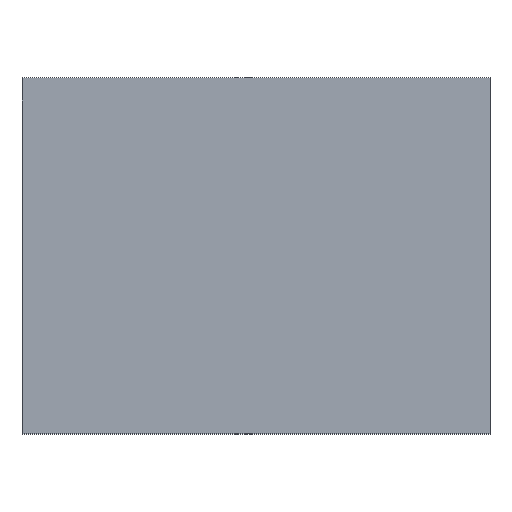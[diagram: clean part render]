
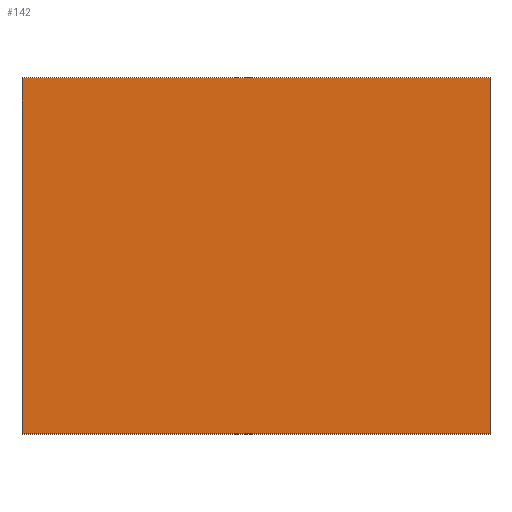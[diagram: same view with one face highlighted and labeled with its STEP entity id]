
A CAD part, top view. The second image highlights one B-rep face of the part: STEP entity #142.
In plain terms, the highlighted planar face has unit normal (0, 0, 1).
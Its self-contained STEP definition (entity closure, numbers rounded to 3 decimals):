
#5 = AXIS2_PLACEMENT_3D ( 'NONE', #750, #818, #654 ) ;
#11 = ORIENTED_EDGE ( 'NONE', *, *, #678, .T. ) ;
#16 = LINE ( 'NONE', #681, #679 ) ;
#50 = CARTESIAN_POINT ( 'NONE',  ( 0., 0., 12.5 ) ) ;
#69 = CARTESIAN_POINT ( 'NONE',  ( 0., 0., 12.5 ) ) ;
#97 = VERTEX_POINT ( 'NONE', #69 ) ;
#113 = CARTESIAN_POINT ( 'NONE',  ( 50., 38., 12.5 ) ) ;
#142 = ADVANCED_FACE ( 'NONE', ( #1062 ), #322, .F. ) ;
#190 = EDGE_LOOP ( 'NONE', ( #932, #11, #450, #467 ) ) ;
#258 = CARTESIAN_POINT ( 'NONE',  ( 0., 38., 12.5 ) ) ;
#280 = DIRECTION ( 'NONE',  ( -1., 0., 0. ) ) ;
#289 = LINE ( 'NONE', #50, #921 ) ;
#322 = PLANE ( 'NONE',  #5 ) ;
#376 = DIRECTION ( 'NONE',  ( 0., -1., 0. ) ) ;
#399 = LINE ( 'NONE', #414, #1001 ) ;
#414 = CARTESIAN_POINT ( 'NONE',  ( 0., 0., 12.5 ) ) ;
#450 = ORIENTED_EDGE ( 'NONE', *, *, #857, .T. ) ;
#467 = ORIENTED_EDGE ( 'NONE', *, *, #795, .T. ) ;
#558 = EDGE_CURVE ( 'NONE', #944, #97, #289, .T. ) ;
#576 = VERTEX_POINT ( 'NONE', #1035 ) ;
#628 = CARTESIAN_POINT ( 'NONE',  ( 0., 38., 12.5 ) ) ;
#654 = DIRECTION ( 'NONE',  ( -1., 0., 0. ) ) ;
#678 = EDGE_CURVE ( 'NONE', #97, #576, #399, .T. ) ;
#679 = VECTOR ( 'NONE', #754, 1000. ) ;
#681 = CARTESIAN_POINT ( 'NONE',  ( 50., 0., 12.5 ) ) ;
#749 = DIRECTION ( 'NONE',  ( 1., 0., 0. ) ) ;
#750 = CARTESIAN_POINT ( 'NONE',  ( 0., 0., 12.5 ) ) ;
#754 = DIRECTION ( 'NONE',  ( 0., 1., 0. ) ) ;
#795 = EDGE_CURVE ( 'NONE', #1021, #944, #942, .T. ) ;
#818 = DIRECTION ( 'NONE',  ( 0., 0., -1. ) ) ;
#857 = EDGE_CURVE ( 'NONE', #576, #1021, #16, .T. ) ;
#921 = VECTOR ( 'NONE', #376, 1000. ) ;
#932 = ORIENTED_EDGE ( 'NONE', *, *, #558, .T. ) ;
#942 = LINE ( 'NONE', #258, #969 ) ;
#944 = VERTEX_POINT ( 'NONE', #628 ) ;
#969 = VECTOR ( 'NONE', #280, 1000. ) ;
#1001 = VECTOR ( 'NONE', #749, 1000. ) ;
#1021 = VERTEX_POINT ( 'NONE', #113 ) ;
#1035 = CARTESIAN_POINT ( 'NONE',  ( 50., 0., 12.5 ) ) ;
#1062 = FACE_OUTER_BOUND ( 'NONE', #190, .T. ) ;
